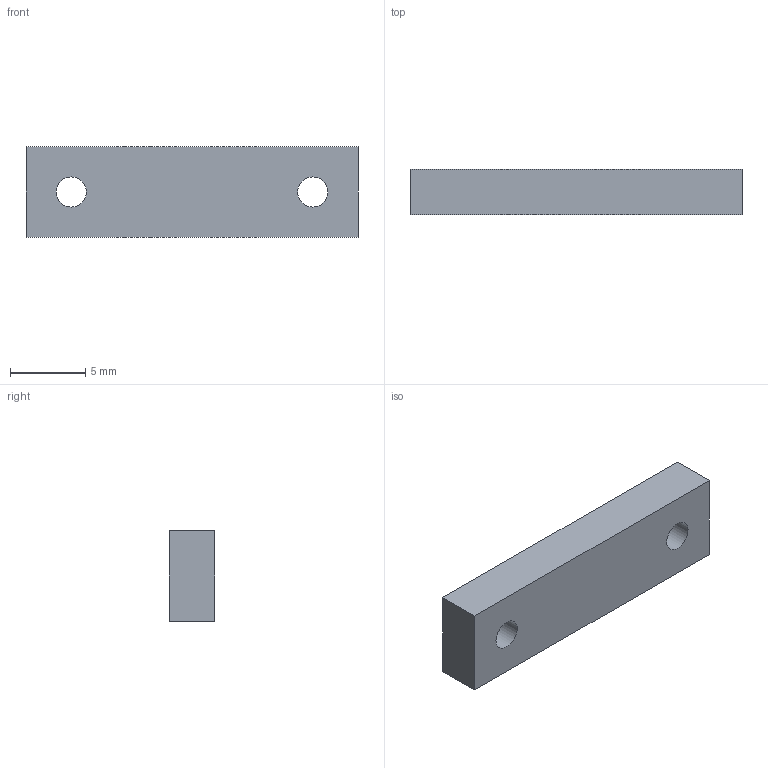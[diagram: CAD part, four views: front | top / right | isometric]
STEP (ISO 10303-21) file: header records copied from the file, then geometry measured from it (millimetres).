
FILE_DESCRIPTION (( 'STEP AP203' ), '1' );
FILE_NAME ('v4v3trava_tcs.STEP', '2026-08-19T20:49:51', ( '' ), ( '' ), 'SwSTEP 2.0', 'SolidWorks 2024', '' );
FILE_SCHEMA (( 'CONFIG_CONTROL_DESIGN' ));
Length unit declared in the file: millimetre
Products named in the file (1): v4v3trava_tcs
Bounding box: 22 x 3 x 6 mm (x, y, z)
Volume: 377.2 mm3; surface area: 457.1 mm2
Topology: 1 solids, 1 shells, 8 faces, 18 edges, 12 vertices
Faces by surface type: plane 6, cylinder 2
Full cylindrical faces by diameter (mm): 2 x2
Entity records: 299 total; most frequent: DIRECTION 38, CARTESIAN_POINT 37, ORIENTED_EDGE 32, EDGE_CURVE 16, EDGE_LOOP 14, AXIS2_PLACEMENT_3D 13, VECTOR 12, VERTEX_POINT 12
